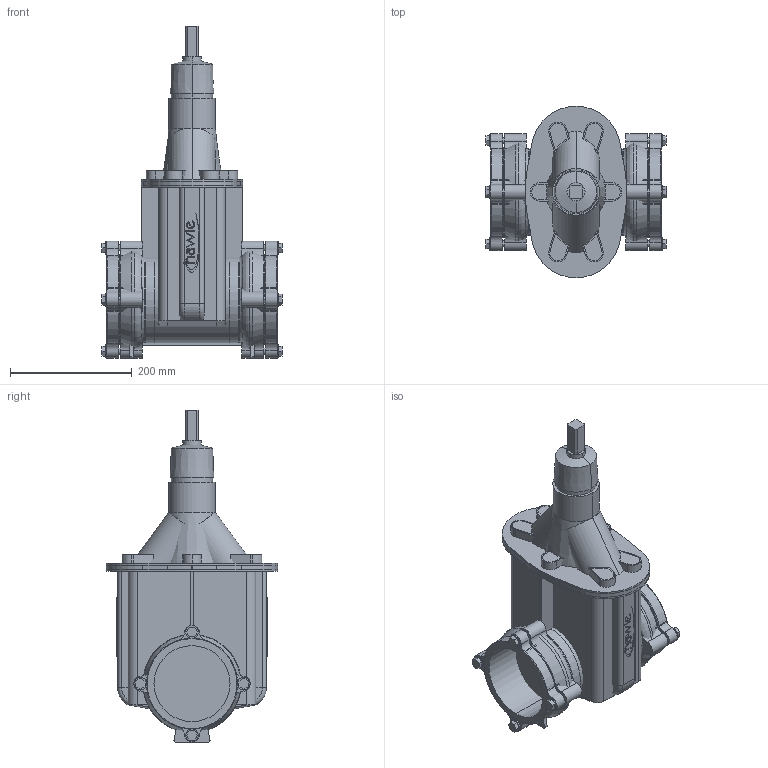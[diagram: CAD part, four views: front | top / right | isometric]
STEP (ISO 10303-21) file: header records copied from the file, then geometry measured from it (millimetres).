
FILE_DESCRIPTION(('STEP AP214'),'1');
FILE_NAME('S:/EK/USER/CAT6/3DHomepage/4040E2/4040E2-PN16-DN125-125.STP','2012-04-24T11:06:41',(' '),(' '),'Spatial InterOp 3D',' ',' ');
FILE_SCHEMA(('automotive_design'));
Length unit declared in the file: millimetre
Products named in the file (93): 3D-Objekt
Bounding box: 296.8 x 281.98 x 546 mm (x, y, z)
Volume: 11487785.9 mm3; surface area: 1141708.1 mm2
Topology: 93 solids, 93 shells, 786 faces, 1774 edges, 1180 vertices
Faces by surface type: plane 426, cylinder 310, torus 28, cone 18, bspline 4
Entity records: 30695 total; most frequent: DIRECTION 4268, CARTESIAN_POINT 3901, ORIENTED_EDGE 3548, EDGE_CURVE 1774, AXIS2_PLACEMENT_3D 1619, VERTEX_POINT 1180, LINE 1030, VECTOR 1030
